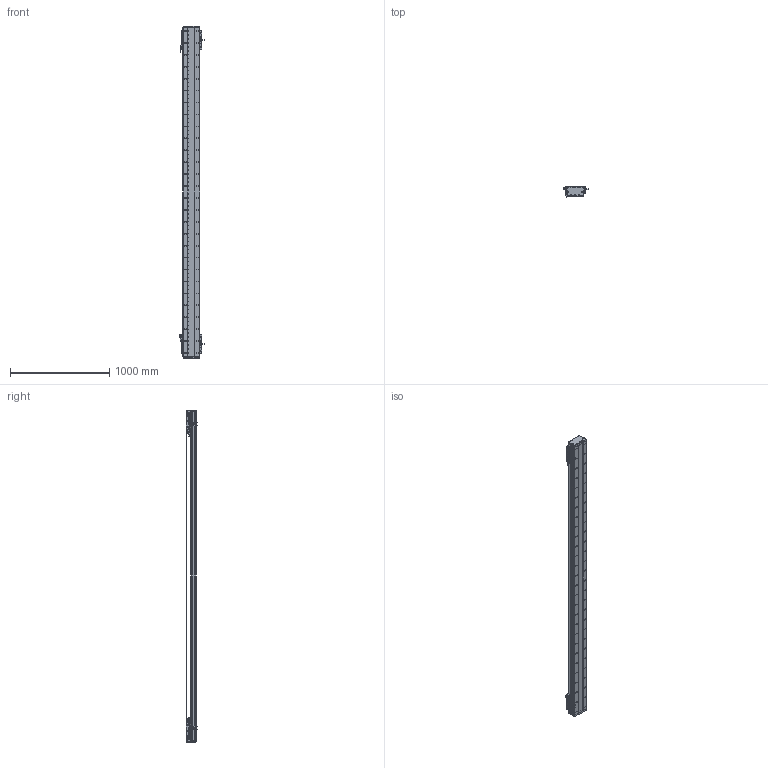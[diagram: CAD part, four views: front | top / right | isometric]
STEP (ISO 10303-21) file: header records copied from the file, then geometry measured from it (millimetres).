
FILE_DESCRIPTION (( 'STEP AP203' ), '1' );
FILE_NAME ('DA-C165-2-C2-T2840-C010-0.2 直线电机.STEP', '2023-05-11T08:31:53', ( '微软用户' ), ( '微软中国' ), 'SwSTEP 2.0', 'SolidWorks 2019', '' );
FILE_SCHEMA (( 'CONFIG_CONTROL_DESIGN' ));
Length unit declared in the file: millimetre
Products named in the file (22): 复件 DMA-010-0.2 读数头^DA-C165-C2-T-C010-0.2-N 直线电机; 葩璃 PM-Y45^DA-C165-C2-T-C010-0.2-N 眻盄萇儂; 复件 CU165钢带组件^DA-C165-C2-T-C010-0.2-N 直线电机; 复件 DA165-GD-1860-002-00 钢带盖板^复件 CU165钢带组件_DA-C165-C2-T-C010-0.2-N 直线电机; 葩璃 CKM01-W075-TRL^DA-C165-C2-T-C010-0.2-N 眻盄萇儂; 复件 XD-U-02L 磁栅尺^DA-C165-C2-T-C010-0.2-N 直线电机_T; 复件 CKM02-W075-C1C2-TP-3.0 一体电机-C2^DA-C165-C2-T-C010-0.2-N 直线电机; 复件 66338-1000-006-00 光电感应块^DA-C165-C2-T-C010-0.2-N 直线电机; DA-C165-2-C2-T2840-C010-0.2 眻盄萇儂; 葩璃 PM-T45^DA-C165-C2-T-C010-0.2-N 眻盄萇儂; IU-CU165-L 菁釱絳寢; 复件 DA165-GD-DG-H-00 端盖^复件 CU165钢带组件_DA-C165-C2-T-C010-0.2-N 直线电机; 复件 DA95-HXJ-00 缓冲橡胶^DA-C165-C2-T-C010-0.2-N 直线电机; 复件 DA165-GDLK-00 钢带拉块^复件 CU165钢带组件_DA-C165-C2-T-C010-0.2-N 直线电机; 复件 DKW-HXJ-JY-00 缓冲橡胶^DA-C165-C2-T-C010-0.2-N 直线电机; 复件 DA165-GYP-00 光电感应片^DA-C165-C2-T-C010-0.2-N 直线电机; IU-CU165-L-00 菁釱_L3300; 复件 六角薄螺母 M3^DA-C165-C2-T-C010-0.2-N 直线电机_GB_FASTENER_NUT_STNAB M3-C; 珨极趙賑雄怢啣wf-C2; 复件 DA165-GDYK-00 钢带压块^复件 CU165钢带组件_DA-C165-C2-T-C010-0.2-N 直线电机; 复件 DA126-GYP-ZJ-00 中间光电感应片^DA-C165-C2-T-C010-0.2-N 直线电机; 葩璃 DA95-GT-T-00^IU-CU165-L 菁釱絳寢_T
Assembly tree (43 placements, depth 3):
  DA-C165-2-C2-T2840-C010-0.2 眻盄萇儂
    IU-CU165-L 菁釱絳寢
      IU-CU165-L-00 菁釱_L3300
      葩璃 DA95-GT-T-00^IU-CU165-L 菁釱絳寢_T  x4
    复件 XD-U-02L 磁栅尺^DA-C165-C2-T-C010-0.2-N 直线电机_T
    葩璃 PM-T45^DA-C165-C2-T-C010-0.2-N 眻盄萇儂  x4
    葩璃 CKM01-W075-TRL^DA-C165-C2-T-C010-0.2-N 眻盄萇儂
    复件 CU165钢带组件^DA-C165-C2-T-C010-0.2-N 直线电机
      复件 DA165-GD-DG-H-00 端盖^复件 CU165钢带组件_DA-C165-C2-T-C010-0.2-N 直线电机  x2
      复件 DA165-GDYK-00 钢带压块^复件 CU165钢带组件_DA-C165-C2-T-C010-0.2-N 直线电机  x2
      复件 DA165-GD-1860-002-00 钢带盖板^复件 CU165钢带组件_DA-C165-C2-T-C010-0.2-N 直线电机
      复件 DA165-GDLK-00 钢带拉块^复件 CU165钢带组件_DA-C165-C2-T-C010-0.2-N 直线电机  x2
    复件 DA95-HXJ-00 缓冲橡胶^DA-C165-C2-T-C010-0.2-N 直线电机  x4
    复件 CKM02-W075-C1C2-TP-3.0 一体电机-C2^DA-C165-C2-T-C010-0.2-N 直线电机  x2
    复件 DMA-010-0.2 读数头^DA-C165-C2-T-C010-0.2-N 直线电机  x2
    复件 DA165-GYP-00 光电感应片^DA-C165-C2-T-C010-0.2-N 直线电机  x2
    复件 66338-1000-006-00 光电感应块^DA-C165-C2-T-C010-0.2-N 直线电机
    葩璃 PM-Y45^DA-C165-C2-T-C010-0.2-N 眻盄萇儂
    复件 DA126-GYP-ZJ-00 中间光电感应片^DA-C165-C2-T-C010-0.2-N 直线电机
    复件 DKW-HXJ-JY-00 缓冲橡胶^DA-C165-C2-T-C010-0.2-N 直线电机  x2
    复件 六角薄螺母 M3^DA-C165-C2-T-C010-0.2-N 直线电机_GB_FASTENER_NUT_STNAB M3-C  x6
    珨极趙賑雄怢啣wf-C2  x2
Bounding box: 247.2 x 111.45 x 3340 mm (x, y, z)
Volume: 19593572.2 mm3; surface area: 5792360.5 mm2
Topology: 119 solids, 119 shells, 6019 faces, 17268 edges, 10956 vertices
Faces by surface type: cylinder 3396, plane 1831, cone 704, torus 80, sphere 8
Entity records: 154650 total; most frequent: CARTESIAN_POINT 43089, ORIENTED_EDGE 23480, DIRECTION 22182, EDGE_CURVE 11740, AXIS2_PLACEMENT_3D 8462, VERTEX_POINT 7693, EDGE_LOOP 5297, VECTOR 5258
